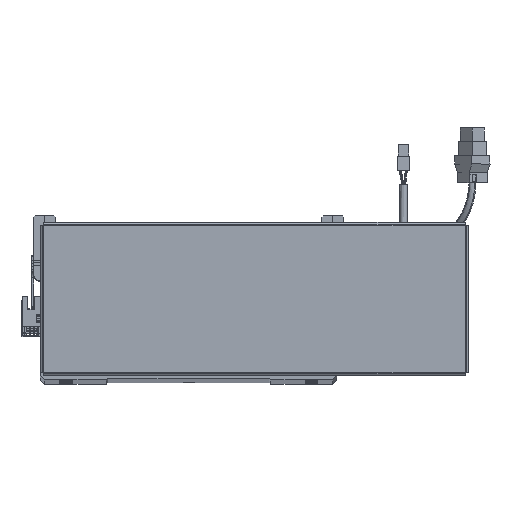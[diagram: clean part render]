
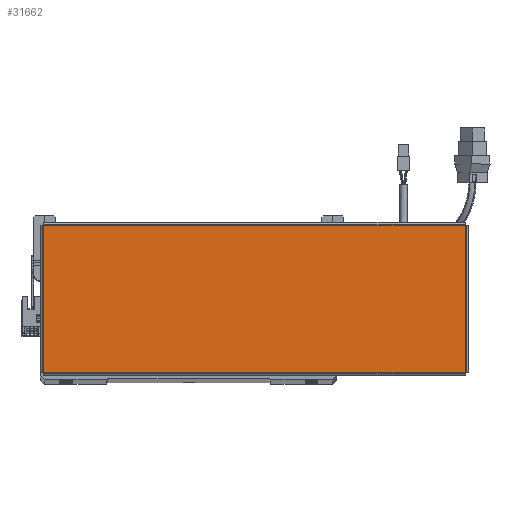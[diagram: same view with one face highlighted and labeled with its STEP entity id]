
A CAD part, top view. The second image highlights one B-rep face of the part: STEP entity #31662.
In plain terms, the highlighted planar face has unit normal (0, 0, 1).
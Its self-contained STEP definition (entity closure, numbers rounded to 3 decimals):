
#257 = DIRECTION ( 'NONE',  ( 1., 0., 0. ) ) ;
#1007 = CARTESIAN_POINT ( 'NONE',  ( 156.513, -54.793, 0. ) ) ;
#3277 = DIRECTION ( 'NONE',  ( 0., -1., 0. ) ) ;
#4808 = CARTESIAN_POINT ( 'NONE',  ( -156.513, -54.763, 0. ) ) ;
#9693 = LINE ( 'NONE', #20213, #17796 ) ;
#10631 = ORIENTED_EDGE ( 'NONE', *, *, #65157, .T. ) ;
#10885 = DIRECTION ( 'NONE',  ( -1., 0., 0. ) ) ;
#13191 = LINE ( 'NONE', #55725, #32951 ) ;
#13403 = EDGE_CURVE ( 'NONE', #37567, #13470, #68658, .T. ) ;
#13470 = VERTEX_POINT ( 'NONE', #29668 ) ;
#13724 = LINE ( 'NONE', #66753, #15539 ) ;
#15539 = VECTOR ( 'NONE', #3277, 1000. ) ;
#17796 = VECTOR ( 'NONE', #50165, 1000. ) ;
#18338 = CARTESIAN_POINT ( 'NONE',  ( -156.513, 54.763, 0. ) ) ;
#20213 = CARTESIAN_POINT ( 'NONE',  ( -156.543, -54.763, 0. ) ) ;
#29155 = CARTESIAN_POINT ( 'NONE',  ( 0., 0., 0. ) ) ;
#29668 = CARTESIAN_POINT ( 'NONE',  ( 156.513, 54.763, 0. ) ) ;
#31662 = ADVANCED_FACE ( 'NONE', ( #48510 ), #69223, .T. ) ;
#31924 = CARTESIAN_POINT ( 'NONE',  ( 156.513, -54.763, 0. ) ) ;
#32951 = VECTOR ( 'NONE', #10885, 1000. ) ;
#34691 = DIRECTION ( 'NONE',  ( 0., 0., 1. ) ) ;
#37567 = VERTEX_POINT ( 'NONE', #31924 ) ;
#39051 = ORIENTED_EDGE ( 'NONE', *, *, #73701, .T. ) ;
#45983 = EDGE_CURVE ( 'NONE', #52094, #37567, #9693, .T. ) ;
#48510 = FACE_OUTER_BOUND ( 'NONE', #71320, .T. ) ;
#49940 = ORIENTED_EDGE ( 'NONE', *, *, #13403, .T. ) ;
#50165 = DIRECTION ( 'NONE',  ( 1., 0., 0. ) ) ;
#52094 = VERTEX_POINT ( 'NONE', #4808 ) ;
#52359 = DIRECTION ( 'NONE',  ( 0., 1., 0. ) ) ;
#55725 = CARTESIAN_POINT ( 'NONE',  ( 156.543, 54.763, 0. ) ) ;
#58039 = AXIS2_PLACEMENT_3D ( 'NONE', #29155, #34691, #257 ) ;
#62964 = ORIENTED_EDGE ( 'NONE', *, *, #45983, .T. ) ;
#65157 = EDGE_CURVE ( 'NONE', #13470, #69136, #13191, .T. ) ;
#66753 = CARTESIAN_POINT ( 'NONE',  ( -156.513, 54.793, 0. ) ) ;
#66868 = VECTOR ( 'NONE', #52359, 1000. ) ;
#68658 = LINE ( 'NONE', #1007, #66868 ) ;
#69136 = VERTEX_POINT ( 'NONE', #18338 ) ;
#69223 = PLANE ( 'NONE',  #58039 ) ;
#71320 = EDGE_LOOP ( 'NONE', ( #62964, #49940, #10631, #39051 ) ) ;
#73701 = EDGE_CURVE ( 'NONE', #69136, #52094, #13724, .T. ) ;
